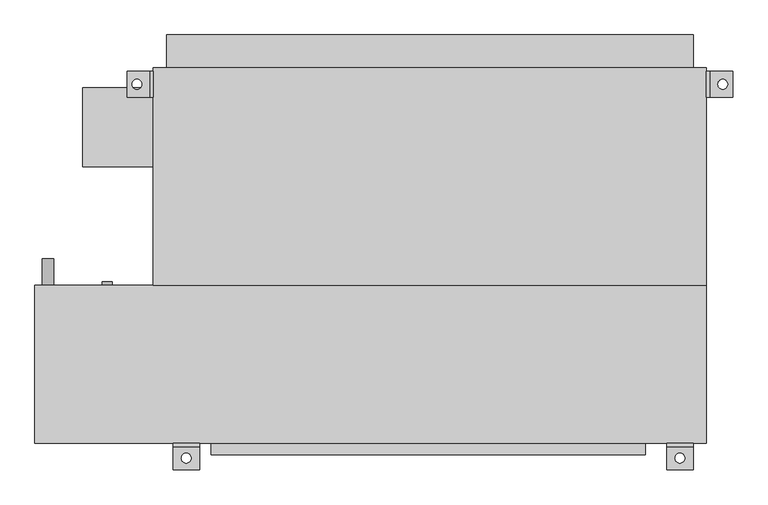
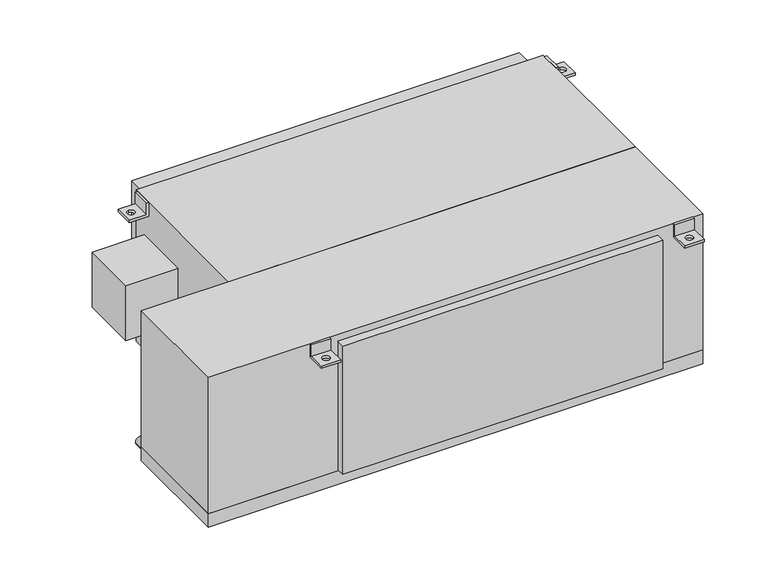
"""IFC4 building model written with IfcOpenShell, lengths in millimetres: proxy geometry, Concealed_High_Capacity_Horizontal_Fan_Coil_Unit_With_Plenum_-_42DCA_-_CARRIER_-_2-Pipe_Cool-EHeat_ValveEnclosure_LH_2022 : Size 14 - 277v/60Hz/1Ph - 6 Row 10.0kW."""

import ifcopenshell
import ifcopenshell.guid

model = None  # the IFC model being written
_history = None  # IfcOwnerHistory: only IFC2X3 demands one
_inside = {}  # id of a spatial element -> (the spatial element, [elements in it])
_under = {}  # id of a project, library or spatial element -> (it, [spatial elements below it])
_declared = {}  # id of a project -> (the project, [libraries it declares])
_typed = {}  # id of a type object -> (the type object, [elements of that type])
_made_of = {}  # id of a material, layer set ... -> (it, [elements and type objects made of it])


def new_model(schema):
    """Start an empty IFC model of exactly this schema.

    Asked for "IFC4X3", IfcOpenShell would pick the latest addendum, in which some entities
    have other attributes; the version numbers below select the first issue.
    IFC2X3 requires an IfcOwnerHistory on every rooted entity: one is made here for all.
    """
    global model, _history
    if schema == "IFC4X3":
        model = ifcopenshell.file(schema_version=(4, 3, 0, 0))
    else:
        model = ifcopenshell.file(schema=schema)
    _inside.clear()
    _under.clear()
    _declared.clear()
    _typed.clear()
    _made_of.clear()
    _history = None
    if model.schema == "IFC2X3":
        org = make("IfcOrganization", Name="unknown")
        user = make(
            "IfcPersonAndOrganization",
            ThePerson=make("IfcPerson", FamilyName="unknown"),
            TheOrganization=org,
        )
        app = make(
            "IfcApplication",
            ApplicationDeveloper=org,
            Version="unknown",
            ApplicationFullName="unknown",
            ApplicationIdentifier="unknown",
        )
        _history = make(
            "IfcOwnerHistory",
            OwningUser=user,
            OwningApplication=app,
            ChangeAction="ADDED",
            CreationDate=0,
        )
    return model


def make(cls, **values):
    """One entity of the class cls with the attributes given. An attribute that is None is left unset."""
    return model.create_entity(
        cls, **{name: value for name, value in values.items() if value is not None}
    )


def rooted(cls, **values):
    """An entity with a GlobalId (a new one), such as an element, a storey or a relation."""
    return make(cls, GlobalId=ifcopenshell.guid.new(), OwnerHistory=_history, **values)


def si_unit(unit_type, name, prefix=None):
    """IfcSIUnit, for example si_unit("LENGTHUNIT", "METRE", prefix="MILLI")."""
    return make("IfcSIUnit", UnitType=unit_type, Prefix=prefix, Name=name)


def assignment(units):
    """IfcUnitAssignment: the units of a project."""
    return None if units is None else make("IfcUnitAssignment", Units=units)


def point(xyz):
    """IfcCartesianPoint."""
    return None if xyz is None else make("IfcCartesianPoint", Coordinates=xyz)


def direction(xyz):
    """IfcDirection."""
    return None if xyz is None else make("IfcDirection", DirectionRatios=xyz)


def frame(location, z_axis=None, x_axis=None):
    """IfcAxis2Placement3D, a coordinate frame: its origin and axes. An axis left out is left unset."""
    return make(
        "IfcAxis2Placement3D",
        Location=point(location),
        Axis=direction(z_axis),
        RefDirection=direction(x_axis),
    )


def frame_2d(location, x_axis=None):
    """IfcAxis2Placement2D, a coordinate frame in the plane: its origin and x axis."""
    return make(
        "IfcAxis2Placement2D", Location=point(location), RefDirection=direction(x_axis)
    )


def origin():
    """The frame at (0, 0, 0) with its axes left unset."""
    return frame((0.0, 0.0, 0.0))


def place(relative_to, where):
    """IfcLocalPlacement: puts the frame where relative to a parent placement (None: the world)."""
    return make(
        "IfcLocalPlacement", PlacementRelTo=relative_to, RelativePlacement=where
    )


def context(
    kind, dimensions, precision=None, world=None, true_north=None, identifier=None
):
    """IfcGeometricRepresentationContext, for example the 3D "Model" context."""
    return make(
        "IfcGeometricRepresentationContext",
        ContextIdentifier=identifier,
        ContextType=kind,
        CoordinateSpaceDimension=dimensions,
        Precision=precision,
        WorldCoordinateSystem=world,
        TrueNorth=true_north,
    )


def project(units=None, contexts=None):
    """IfcProject with its units and contexts."""
    return rooted(
        "IfcProject",
        Name="project",
        RepresentationContexts=contexts,
        UnitsInContext=assignment(units),
    )


def spatial(cls, under=None, at=None, **own):
    """A site, building, storey or space (cls), placed at a placement, below another one or the project."""
    s = rooted(cls, ObjectPlacement=at, **own)
    if under is not None:
        _under.setdefault(under.id(), (under, []))[1].append(s)
    return s


def polyline(points):
    """IfcPolyline through the points."""
    return make("IfcPolyline", Points=[point(p) for p in points])


def circle_curve(where, radius):
    """IfcCircle in the frame where."""
    return make("IfcCircle", Position=where, Radius=radius)


def trimmed(basis, trim1, trim2, sense, master):
    """IfcTrimmedCurve: the piece of a basis curve between two trims."""
    return make(
        "IfcTrimmedCurve",
        BasisCurve=basis,
        Trim1=trim1,
        Trim2=trim2,
        SenseAgreement=sense,
        MasterRepresentation=master,
    )


def segment(curve, same_sense, transition):
    """IfcCompositeCurveSegment."""
    return make(
        "IfcCompositeCurveSegment",
        Transition=transition,
        SameSense=same_sense,
        ParentCurve=curve,
    )


def composite_curve(segments, self_intersect=None):
    """IfcCompositeCurve: segments joined end to end."""
    return make("IfcCompositeCurve", Segments=segments, SelfIntersect=self_intersect)


def outline(outer, holes=None, kind="AREA"):
    """IfcArbitraryClosedProfileDef: a profile drawn as a closed curve; with holes, ...WithVoids."""
    if holes is None:
        return make("IfcArbitraryClosedProfileDef", ProfileType=kind, OuterCurve=outer)
    return make(
        "IfcArbitraryProfileDefWithVoids",
        ProfileType=kind,
        OuterCurve=outer,
        InnerCurves=holes,
    )


def extrude(swept, where, along, depth):
    """IfcExtrudedAreaSolid: the profile swept, set in the frame where, extruded along a direction by depth."""
    return make(
        "IfcExtrudedAreaSolid",
        SweptArea=swept,
        Position=where,
        ExtrudedDirection=direction(along),
        Depth=depth,
    )


def shape(context_of_items, identifier, shape_type, items):
    """IfcShapeRepresentation: the items that make up one representation, for example the "Body"."""
    return make(
        "IfcShapeRepresentation",
        ContextOfItems=context_of_items,
        RepresentationIdentifier=identifier,
        RepresentationType=shape_type,
        Items=items,
    )


def source(mapping_origin, context_of_items, identifier, shape_type, items):
    """IfcRepresentationMap: a shape defined once, which mapped items show again and again."""
    return make(
        "IfcRepresentationMap",
        MappingOrigin=mapping_origin,
        MappedRepresentation=shape(context_of_items, identifier, shape_type, items),
    )


def transform(
    local_origin,
    x_axis=None,
    y_axis=None,
    z_axis=None,
    scale=None,
    scale2=None,
    scale3=None,
    uniform=True,
):
    """IfcCartesianTransformationOperator3D, or its non-uniform kind. x_axis, y_axis, z_axis: its Axis1, 2, 3."""
    if uniform:
        return make(
            "IfcCartesianTransformationOperator3D",
            Axis1=direction(x_axis),
            Axis2=direction(y_axis),
            LocalOrigin=point(local_origin),
            Scale=scale,
            Axis3=direction(z_axis),
        )
    return make(
        "IfcCartesianTransformationOperator3DnonUniform",
        Axis1=direction(x_axis),
        Axis2=direction(y_axis),
        LocalOrigin=point(local_origin),
        Scale=scale,
        Axis3=direction(z_axis),
        Scale2=scale2,
        Scale3=scale3,
    )


def mapped(mapping_source, mapping_target):
    """IfcMappedItem: shows the shape of a source again, moved by a transform."""
    return make(
        "IfcMappedItem", MappingSource=mapping_source, MappingTarget=mapping_target
    )


def made_of(thing, what):
    """Note that an element or type object is made of a material, layer set ...; save() writes the relation."""
    if what is not None:
        _made_of.setdefault(what.id(), (what, []))[1].append(thing)
    return thing


def element(
    cls,
    number,
    at=None,
    inside=None,
    cuts=None,
    type_object=None,
    material=None,
    context=None,
    identifier="Body",
    shape_type=None,
    held_by="IfcProductDefinitionShape",
    body=None,
    shapes=None,
    **own,
):
    """One element of the class cls, such as IfcWall. Its Tag is "e" and its number.

    at: its placement. inside: the storey or other place that contains it. cuts: it is an
    opening in that element (IfcRelVoidsElement). A single representation is given by context,
    identifier, shape_type and body (its items); several are given by shapes. held_by: the class
    of the entity that holds the representations. save() writes the other relations.
    """
    e = rooted(cls, Tag="e%d" % number, ObjectPlacement=at, **own)
    if body is not None:
        shapes = [shape(context, identifier, shape_type, body)]
    if shapes is not None:
        e.Representation = make(held_by, Representations=shapes)
    if inside is not None:
        _inside.setdefault(inside.id(), (inside, []))[1].append(e)
    if cuts is not None:
        rooted(
            "IfcRelVoidsElement", RelatingBuildingElement=cuts, RelatedOpeningElement=e
        )
    if type_object is not None:
        _typed.setdefault(type_object.id(), (type_object, []))[1].append(e)
    return made_of(e, material)


def aggregate(whole, parts):
    """IfcRelAggregates: a whole, such as a stair, and the parts it consists of."""
    return rooted("IfcRelAggregates", RelatingObject=whole, RelatedObjects=parts)


def save(model, path):
    """Write the relations noted so far, then the file.

    IfcRelAggregates (storeys below a building ...), IfcRelContainedInSpatialStructure (elements
    in a storey), IfcRelDefinesByType, IfcRelAssociatesMaterial and IfcRelDeclares: one each for
    every whole, place, type object, material and project.
    """
    for whole, parts in _under.values():
        aggregate(whole, parts)
    for where, things in _inside.values():
        rooted(
            "IfcRelContainedInSpatialStructure",
            RelatedElements=things,
            RelatingStructure=where,
        )
    for kind, things in _typed.values():
        rooted("IfcRelDefinesByType", RelatedObjects=things, RelatingType=kind)
    for what, things in _made_of.values():
        rooted("IfcRelAssociatesMaterial", RelatedObjects=things, RelatingMaterial=what)
    for by, libraries in _declared.values():
        rooted("IfcRelDeclares", RelatingContext=by, RelatedDefinitions=libraries)
    model.write(path)


def plane_surface(at):
    """IfcPlane: the flat surface through the origin of the frame at, square to its z axis."""
    return make("IfcPlane", Position=at)


def revolved_surface(curve, axis_point, axis_direction):
    """IfcSurfaceOfRevolution: the curve turned about the line through axis_point along axis_direction."""
    return make(
        "IfcSurfaceOfRevolution",
        SweptCurve=make("IfcArbitraryOpenProfileDef", ProfileType="CURVE", Curve=curve),
        AxisPosition=make("IfcAxis1Placement", Location=point(axis_point), Axis=direction(axis_direction)),
    )


def advanced_brep(points, edges, surfaces, faces):
    """IfcAdvancedBrep: a solid bounded by faces that lie on surfaces and meet in shared edges.

    An edge is (start, end): straight between two places in points (the first is 0);
    or (start, end, curve); or (start, end, curve, False) where it runs against its curve.
    A face is (place in surfaces, loops), or (place, loops, False) where it looks against
    its surface's normal. A loop lists edges by number (the first is 1), with a minus sign
    where the edge is run from its end to its start. The first loop is the outer one.
    """
    corners = [point(p) for p in points]
    vertices = [make("IfcVertexPoint", VertexGeometry=c) for c in corners]
    made = []
    for start, end, *more in edges:
        made.append(
            make(
                "IfcEdgeCurve",
                EdgeStart=vertices[start],
                EdgeEnd=vertices[end],
                EdgeGeometry=more[0] if more else make("IfcPolyline", Points=[corners[start], corners[end]]),
                SameSense=more[1] if len(more) > 1 else True,
            )
        )
    hull = []
    for where, loops, *sense in faces:
        bounds = []
        for j, loop in enumerate(loops):
            ring = [make("IfcOrientedEdge", EdgeElement=made[abs(k) - 1], Orientation=k > 0) for k in loop]
            bounds.append(
                make(
                    "IfcFaceOuterBound" if j == 0 else "IfcFaceBound",
                    Bound=make("IfcEdgeLoop", EdgeList=ring),
                    Orientation=True,
                )
            )
        hull.append(make("IfcAdvancedFace", Bounds=bounds, FaceSurface=surfaces[where], SameSense=sense[0] if sense else True))
    return make("IfcAdvancedBrep", Outer=make("IfcClosedShell", CfsFaces=hull))


def mechanical_equipment_f9b23777(model_context):
    return source(origin(), model_context, "Body", "SolidModel", [
        advanced_brep(
        [(660.4, -390.525, 0.0), (660.4, -396.875, 0.0), (660.4, -396.875, -31.75), (660.4, -441.325, -31.75), (660.4, -441.325, -38.1), (660.4, -390.525, -38.1), (609.6, -390.525, 0.0), (609.6, -390.525, -38.1), (609.6, -441.325, -38.1), (609.6, -441.325, -31.75), (609.6, -396.875, -31.75), (609.6, -396.875, 0.0), (625.475, -419.1, -31.75), (644.525, -419.1, -31.75), (644.525, -419.1, -38.1), (625.475, -419.1, -38.1)],
        [
            (0, 1),
            (1, 2),
            (2, 3),
            (3, 4),
            (4, 5),
            (5, 0),
            (6, 7),
            (7, 8),
            (8, 9),
            (9, 10),
            (10, 11),
            (11, 6),
            (0, 6),
            (11, 1),
            (10, 2),
            (9, 3),
            (12, 13, circle_curve(frame((635.0, -419.1, -31.75), z_axis=(0.0, 0.0, -1.0), x_axis=(1.0, 0.0, 0.0)), 9.525)),
            (13, 12, circle_curve(frame((635.0, -419.1, -31.75), z_axis=(0.0, 0.0, -1.0), x_axis=(1.0, 0.0, 0.0)), 9.525)),
            (8, 4),
            (7, 5),
            (14, 15, circle_curve(frame((635.0, -419.1, -38.1), z_axis=(0.0, 0.0, 1.0), x_axis=(1.0, 0.0, 0.0)), 9.525)),
            (15, 14, circle_curve(frame((635.0, -419.1, -38.1), z_axis=(0.0, 0.0, 1.0), x_axis=(1.0, 0.0, 0.0)), 9.525)),
            (12, 15),
            (14, 13),
        ],
        [
            plane_surface(frame((660.4, -396.875, 0.0), z_axis=(1.0, 0.0, 0.0), x_axis=(0.0, -1.0, 0.0))),
            plane_surface(frame((609.6, -396.875, 0.0), z_axis=(-1.0, 0.0, 0.0), x_axis=(0.0, 1.0, 0.0))),
            plane_surface(frame((660.4, -390.525, 0.0), z_axis=(0.0, 0.0, 1.0), x_axis=(-1.0, 0.0, 0.0))),
            plane_surface(frame((660.4, -396.875, 0.0), z_axis=(0.0, -1.0, 0.0), x_axis=(-1.0, 0.0, 0.0))),
            plane_surface(frame((660.4, -396.875, -31.75), z_axis=(0.0, 0.0, 1.0), x_axis=(-1.0, 0.0, 0.0))),
            plane_surface(frame((660.4, -441.325, -31.75), z_axis=(0.0, -1.0, 0.0), x_axis=(-1.0, 0.0, 0.0))),
            plane_surface(frame((660.4, -441.325, -38.1), z_axis=(0.0, 0.0, -1.0), x_axis=(-1.0, 0.0, 0.0))),
            plane_surface(frame((660.4, -390.525, -38.1), z_axis=(0.0, 1.0, 0.0), x_axis=(-1.0, 0.0, 0.0))),
            revolved_surface(polyline([(644.525, -419.1, -38.1), (644.525, -419.1, -31.75)]), (635.0, -419.1, -31.75), (0.0, 0.0, -1.0)),
        ],
        [
            (0, [[1, 2, 3, 4, 5, 6]]),
            (1, [[7, 8, 9, 10, 11, 12]]),
            (2, [[-1, 13, -12, 14]]),
            (3, [[-2, -14, -11, 15]]),
            (4, [[-3, -15, -10, 16], [17, 18]]),
            (5, [[-4, -16, -9, 19]]),
            (6, [[-5, -19, -8, 20], [21, 22]]),
            (7, [[-6, -20, -7, -13]]),
            (8, [[23, -21, 24, -17]]),
            (8, [[-23, -18, -24, -22]]),
        ],
    ),
        advanced_brep(
        [(-292.1, -390.525, -38.1), (-292.1, -390.525, 0.0), (-292.1, -396.875, 0.0), (-292.1, -396.875, -31.75), (-292.1, -441.325, -31.75), (-292.1, -441.325, -38.1), (-342.9, -390.525, -38.1), (-342.9, -441.325, -38.1), (-342.9, -441.325, -31.75), (-342.9, -396.875, -31.75), (-342.9, -396.875, 0.0), (-342.9, -390.525, 0.0), (-327.025, -419.1, -31.75), (-307.975, -419.1, -31.75), (-307.975, -419.1, -38.1), (-327.025, -419.1, -38.1)],
        [
            (0, 1),
            (1, 2),
            (2, 3),
            (3, 4),
            (4, 5),
            (5, 0),
            (6, 7),
            (7, 8),
            (8, 9),
            (9, 10),
            (10, 11),
            (11, 6),
            (0, 6),
            (11, 1),
            (10, 2),
            (9, 3),
            (8, 4),
            (12, 13, circle_curve(frame((-317.5, -419.1, -31.75), z_axis=(0.0, 0.0, -1.0), x_axis=(1.0, 0.0, 0.0)), 9.525)),
            (13, 12, circle_curve(frame((-317.5, -419.1, -31.75), z_axis=(0.0, 0.0, -1.0), x_axis=(1.0, 0.0, 0.0)), 9.525)),
            (7, 5),
            (14, 15, circle_curve(frame((-317.5, -419.1, -38.1), z_axis=(0.0, 0.0, 1.0), x_axis=(1.0, 0.0, 0.0)), 9.525)),
            (15, 14, circle_curve(frame((-317.5, -419.1, -38.1), z_axis=(0.0, 0.0, 1.0), x_axis=(1.0, 0.0, 0.0)), 9.525)),
            (12, 15),
            (14, 13),
        ],
        [
            plane_surface(frame((-292.1, -390.525, -38.1), z_axis=(1.0, 0.0, 0.0), x_axis=(0.0, 0.0, 1.0))),
            plane_surface(frame((-342.9, -390.525, -38.1), z_axis=(-1.0, 0.0, 0.0), x_axis=(0.0, 0.0, -1.0))),
            plane_surface(frame((-292.1, -390.525, -38.1), z_axis=(0.0, 1.0, 0.0), x_axis=(-1.0, 0.0, 0.0))),
            plane_surface(frame((-292.1, -390.525, 0.0), z_axis=(0.0, 0.0, 1.0), x_axis=(-1.0, 0.0, 0.0))),
            plane_surface(frame((-292.1, -396.875, 0.0), z_axis=(0.0, -1.0, 0.0), x_axis=(-1.0, 0.0, 0.0))),
            plane_surface(frame((-292.1, -396.875, -31.75), z_axis=(0.0, 0.0, 1.0), x_axis=(-1.0, 0.0, 0.0))),
            plane_surface(frame((-292.1, -441.325, -31.75), z_axis=(0.0, -1.0, 0.0), x_axis=(-1.0, 0.0, 0.0))),
            plane_surface(frame((-292.1, -441.325, -38.1), z_axis=(0.0, 0.0, -1.0), x_axis=(-1.0, 0.0, 0.0))),
            revolved_surface(polyline([(-307.975, -419.1, -38.1), (-307.975, -419.1, -31.75)]), (-317.5, -419.1, -31.75), (0.0, 0.0, -1.0)),
        ],
        [
            (0, [[1, 2, 3, 4, 5, 6]]),
            (1, [[7, 8, 9, 10, 11, 12]]),
            (2, [[-1, 13, -12, 14]]),
            (3, [[-2, -14, -11, 15]]),
            (4, [[-3, -15, -10, 16]]),
            (5, [[-4, -16, -9, 17], [18, 19]]),
            (6, [[-5, -17, -8, 20]]),
            (7, [[-6, -20, -7, -13], [21, 22]]),
            (8, [[23, -21, 24, -18]]),
            (8, [[-23, -19, -24, -22]]),
        ],
    ),
        extrude(outline(composite_curve([segment(trimmed(circle_curve(frame_2d((-400.05, -584.2)), 11.1125), [point((-400.05, -595.3125))], [point((-400.05, -573.0875))], False, "CARTESIAN"), True, "CONTINUOUS"), segment(trimmed(circle_curve(frame_2d((-400.05, -584.2)), 11.1125), [point((-400.05, -573.0875))], [point((-400.05, -595.3125))], False, "CARTESIAN"), True, "CONTINUOUS")], self_intersect=False)), frame((0.0, -85.725, 0.0), z_axis=(0.0, 1.0, 0.0), x_axis=(0.0, 0.0, 1.0)), (0.0, 0.0, 1.0), 50.8),
        extrude(outline(composite_curve([segment(trimmed(circle_curve(frame_2d((-44.45, -469.9)), 9.525), [point((-44.45, -479.425))], [point((-44.45, -460.375))], False, "CARTESIAN"), True, "CONTINUOUS"), segment(trimmed(circle_curve(frame_2d((-44.45, -469.9)), 9.525), [point((-44.45, -460.375))], [point((-44.45, -479.425))], False, "CARTESIAN"), True, "CONTINUOUS")], self_intersect=False)), frame((0.0, -85.725, 0.0), z_axis=(0.0, 1.0, 0.0), x_axis=(0.0, 0.0, 1.0)), (0.0, 0.0, 1.0), 6.35),
        extrude(outline(composite_curve([segment(trimmed(circle_curve(frame_2d((-276.225, -469.9)), 9.525), [point((-276.225, -479.425))], [point((-276.225, -460.375))], False, "CARTESIAN"), True, "CONTINUOUS"), segment(trimmed(circle_curve(frame_2d((-276.225, -469.9)), 9.525), [point((-276.225, -460.375))], [point((-276.225, -479.425))], False, "CARTESIAN"), True, "CONTINUOUS")], self_intersect=False)), frame((0.0, -85.725, 0.0), z_axis=(0.0, 1.0, 0.0), x_axis=(0.0, 0.0, 1.0)), (0.0, 0.0, 1.0), 6.35),
        advanced_brep(
        [(-381.0, 327.025, -38.1), (-431.8, 327.025, -38.1), (-431.8, 327.025, -31.75), (-387.35, 327.025, -31.75), (-387.35, 327.025, 0.0), (-381.0, 327.025, 0.0), (-381.0, 276.225, -38.1), (-381.0, 276.225, 0.0), (-387.35, 276.225, 0.0), (-387.35, 276.225, -31.75), (-431.8, 276.225, -31.75), (-431.8, 276.225, -38.1), (-412.75, 292.1, -38.1), (-412.75, 311.15, -38.1), (-412.75, 311.15, -31.75), (-412.75, 292.1, -31.75)],
        [
            (0, 1),
            (1, 2),
            (2, 3),
            (3, 4),
            (4, 5),
            (5, 0),
            (6, 7),
            (7, 8),
            (8, 9),
            (9, 10),
            (10, 11),
            (11, 6),
            (0, 6),
            (11, 1),
            (12, 13, circle_curve(frame((-412.75, 301.625, -38.1), z_axis=(0.0, 0.0, 1.0), x_axis=(0.0, -1.0, 0.0)), 9.525)),
            (13, 12, circle_curve(frame((-412.75, 301.625, -38.1), z_axis=(0.0, 0.0, 1.0), x_axis=(0.0, -1.0, 0.0)), 9.525)),
            (10, 2),
            (9, 3),
            (14, 15, circle_curve(frame((-412.75, 301.625, -31.75), z_axis=(0.0, 0.0, -1.0), x_axis=(0.0, -1.0, 0.0)), 9.525)),
            (15, 14, circle_curve(frame((-412.75, 301.625, -31.75), z_axis=(0.0, 0.0, -1.0), x_axis=(0.0, -1.0, 0.0)), 9.525)),
            (8, 4),
            (7, 5),
            (14, 13),
            (12, 15),
        ],
        [
            plane_surface(frame((-381.0, 327.025, -38.1), z_axis=(0.0, 1.0, 0.0), x_axis=(-1.0, 0.0, 0.0))),
            plane_surface(frame((-381.0, 276.225, -38.1), z_axis=(0.0, -1.0, 0.0), x_axis=(1.0, 0.0, 0.0))),
            plane_surface(frame((-381.0, 327.025, -38.1), z_axis=(0.0, 0.0, -1.0), x_axis=(0.0, -1.0, 0.0))),
            plane_surface(frame((-431.8, 327.025, -38.1), z_axis=(-1.0, 0.0, 0.0), x_axis=(0.0, -1.0, 0.0))),
            plane_surface(frame((-431.8, 327.025, -31.75), z_axis=(0.0, 0.0, 1.0), x_axis=(0.0, -1.0, 0.0))),
            plane_surface(frame((-387.35, 327.025, -31.75), z_axis=(-1.0, 0.0, 0.0), x_axis=(0.0, -1.0, 0.0))),
            plane_surface(frame((-387.35, 327.025, 0.0), z_axis=(0.0, 0.0, 1.0), x_axis=(0.0, -1.0, 0.0))),
            plane_surface(frame((-381.0, 327.025, 0.0), z_axis=(1.0, 0.0, 0.0), x_axis=(0.0, -1.0, 0.0))),
            revolved_surface(polyline([(-412.75, 292.1, -38.1), (-412.75, 292.1, -31.75)]), (-412.75, 301.625, -31.75), (0.0, 0.0, -1.0)),
        ],
        [
            (0, [[1, 2, 3, 4, 5, 6]]),
            (1, [[7, 8, 9, 10, 11, 12]]),
            (2, [[-1, 13, -12, 14], [15, 16]]),
            (3, [[-2, -14, -11, 17]]),
            (4, [[-3, -17, -10, 18], [19, 20]]),
            (5, [[-4, -18, -9, 21]]),
            (6, [[-5, -21, -8, 22]]),
            (7, [[-6, -22, -7, -13]]),
            (8, [[23, -15, 24, -19]]),
            (8, [[-23, -20, -24, -16]]),
        ],
    ),
        advanced_brep(
        [(685.8, 327.025, -38.1), (685.8, 327.025, 0.0), (692.15, 327.025, 0.0), (692.15, 327.025, -31.75), (736.6, 327.025, -31.75), (736.6, 327.025, -38.1), (685.8, 276.225, -38.1), (736.6, 276.225, -38.1), (736.6, 276.225, -31.75), (692.15, 276.225, -31.75), (692.15, 276.225, 0.0), (685.8, 276.225, 0.0), (717.55, 311.15, -31.75), (717.55, 292.1, -31.75), (717.55, 292.1, -38.1), (717.55, 311.15, -38.1)],
        [
            (0, 1),
            (1, 2),
            (2, 3),
            (3, 4),
            (4, 5),
            (5, 0),
            (6, 7),
            (7, 8),
            (8, 9),
            (9, 10),
            (10, 11),
            (11, 6),
            (0, 6),
            (11, 1),
            (10, 2),
            (9, 3),
            (8, 4),
            (12, 13, circle_curve(frame((717.55, 301.625, -31.75), z_axis=(0.0, 0.0, -1.0), x_axis=(0.0, -1.0, 0.0)), 9.525)),
            (13, 12, circle_curve(frame((717.55, 301.625, -31.75), z_axis=(0.0, 0.0, -1.0), x_axis=(0.0, -1.0, 0.0)), 9.525)),
            (7, 5),
            (14, 15, circle_curve(frame((717.55, 301.625, -38.1), z_axis=(0.0, 0.0, 1.0), x_axis=(0.0, -1.0, 0.0)), 9.525)),
            (15, 14, circle_curve(frame((717.55, 301.625, -38.1), z_axis=(0.0, 0.0, 1.0), x_axis=(0.0, -1.0, 0.0)), 9.525)),
            (12, 15),
            (14, 13),
        ],
        [
            plane_surface(frame((-381.0, 327.025, -38.1), z_axis=(0.0, 1.0, 0.0), x_axis=(-1.0, 0.0, 0.0))),
            plane_surface(frame((-381.0, 276.225, -38.1), z_axis=(0.0, -1.0, 0.0), x_axis=(1.0, 0.0, 0.0))),
            plane_surface(frame((685.8, 327.025, -38.1), z_axis=(-1.0, 0.0, 0.0), x_axis=(0.0, -1.0, 0.0))),
            plane_surface(frame((685.8, 327.025, 0.0), z_axis=(0.0, 0.0, 1.0), x_axis=(0.0, -1.0, 0.0))),
            plane_surface(frame((692.15, 327.025, 0.0), z_axis=(1.0, 0.0, 0.0), x_axis=(0.0, -1.0, 0.0))),
            plane_surface(frame((692.15, 327.025, -31.75), z_axis=(0.0, 0.0, 1.0), x_axis=(0.0, -1.0, 0.0))),
            plane_surface(frame((736.6, 327.025, -31.75), z_axis=(1.0, 0.0, 0.0), x_axis=(0.0, -1.0, 0.0))),
            plane_surface(frame((736.6, 327.025, -38.1), z_axis=(0.0, 0.0, -1.0), x_axis=(0.0, -1.0, 0.0))),
            revolved_surface(polyline([(717.55, 292.1, -38.1), (717.55, 292.1, -31.75)]), (717.55, 301.625, -31.75), (0.0, 0.0, -1.0)),
        ],
        [
            (0, [[1, 2, 3, 4, 5, 6]]),
            (1, [[7, 8, 9, 10, 11, 12]]),
            (2, [[-1, 13, -12, 14]]),
            (3, [[-2, -14, -11, 15]]),
            (4, [[-3, -15, -10, 16]]),
            (5, [[-4, -16, -9, 17], [18, 19]]),
            (6, [[-5, -17, -8, 20]]),
            (7, [[-6, -20, -7, -13], [21, 22]]),
            (8, [[23, -21, 24, -18]]),
            (8, [[-23, -19, -24, -22]]),
        ],
    ),
        extrude(outline(polyline([(-355.6, 396.875), (660.4, 396.875), (660.4, 333.375), (-355.6, 333.375), (-355.6, 396.875)])), frame((0.0, 0.0, -377.825), z_axis=(0.0, 0.0, 1.0), x_axis=(1.0, 0.0, 0.0)), (0.0, 0.0, 1.0), 355.6),
        extrude(outline(polyline([(-517.525, 142.875), (-517.525, 295.275), (-381.0, 295.275), (-381.0, 142.875), (-517.525, 142.875)])), frame((0.0, 0.0, -254.0), z_axis=(0.0, 0.0, 1.0), x_axis=(1.0, 0.0, 0.0)), (0.0, 0.0, 1.0), 152.4),
        extrude(outline(polyline([(568.325, -412.75), (-269.875, -412.75), (-269.875, -390.525), (568.325, -390.525), (568.325, -412.75)])), frame((0.0, 0.0, -374.65), z_axis=(0.0, 0.0, 1.0), x_axis=(1.0, 0.0, 0.0)), (0.0, 0.0, 1.0), 355.6),
        extrude(outline(polyline([(685.8, -85.725), (-381.0, -85.725), (-381.0, 333.375), (685.8, 333.375), (685.8, -85.725)])), frame((0.0, 0.0, -419.1), z_axis=(0.0, 0.0, 1.0), x_axis=(1.0, 0.0, 0.0)), (0.0, 0.0, 1.0), 419.1),
        extrude(outline(polyline([(685.8, -85.725), (685.8, -390.525), (-609.6, -390.525), (-609.6, -85.725), (685.8, -85.725)])), frame((0.0, 0.0, -377.825), z_axis=(0.0, 0.0, 1.0), x_axis=(1.0, 0.0, 0.0)), (0.0, 0.0, 1.0), 377.825),
        extrude(outline(polyline([(685.8, -85.725), (685.8, -390.525), (-609.6, -390.525), (-609.6, -85.725), (685.8, -85.725)])), frame((0.0, 0.0, -415.925), z_axis=(0.0, 0.0, 1.0), x_axis=(1.0, 0.0, 0.0)), (0.0, 0.0, 1.0), 38.1),
    ])


if __name__ == "__main__":
    model = new_model("IFC4")
    model_context = context("Model", 3, world=origin())
    ifc_project = project(units=[si_unit("LENGTHUNIT", "METRE", prefix="MILLI")], contexts=[model_context])
    site = spatial("IfcSite", under=ifc_project)
    building = spatial("IfcBuilding", under=site)
    placement = place(None, origin())
    mechanical_equipment_shape = mechanical_equipment_f9b23777(model_context)
    element("IfcBuildingElementProxy", 1, Name="Concealed_High_Capacity_Horizontal_Fan_Coil_Unit_With_Plenum_-_42DCA_-_CARRIER_-_2-Pipe_Cool-EHeat_ValveEnclosure_LH_2022 : Size 14 - 277v/60Hz/1Ph - 6 Row 10.0kW", ObjectType="Concealed_High_Capacity_Horizontal_Fan_Coil_Unit_With_Plenum_-_42DCA_-_CARRIER_-_2-Pipe_Cool-EHeat_ValveEnclosure_LH_2022 : Size 14 - 277v/60Hz/1Ph - 6 Row 10.0kW", at=placement, inside=building, context=model_context, shape_type="MappedRepresentation", body=[
        mapped(mechanical_equipment_shape, transform((0.0, 0.0, 0.0), x_axis=(1.0, 0.0, 0.0), y_axis=(0.0, 1.0, 0.0), z_axis=(0.0, 0.0, 1.0))),
    ])
    save(model, "model.ifc")
